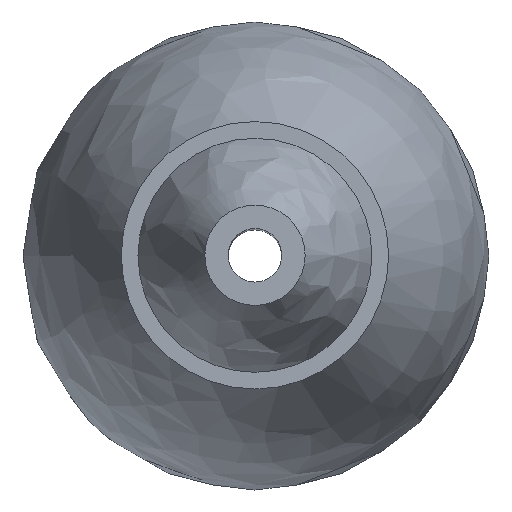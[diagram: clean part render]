
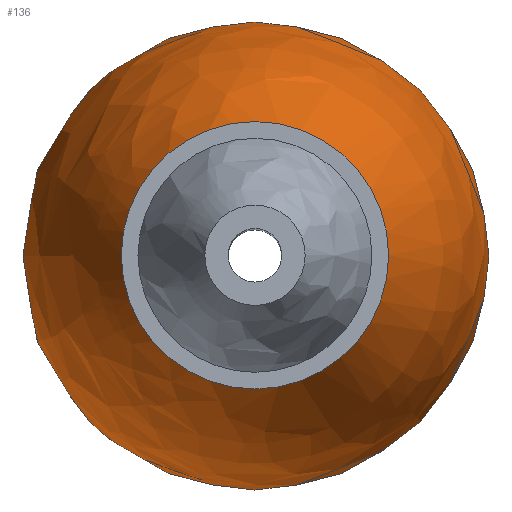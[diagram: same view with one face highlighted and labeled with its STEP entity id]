
A CAD part, top view. The second image highlights one B-rep face of the part: STEP entity #136.
In plain terms, the highlighted free-form (B-spline) face has degree [2, 2] with [3, 9] control points.
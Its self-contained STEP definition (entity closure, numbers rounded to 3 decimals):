
#36=FACE_OUTER_BOUND('',#50,.T.);
#50=EDGE_LOOP('',(#113,#114,#115,#116));
#61=CIRCLE('',#167,8.);
#62=CIRCLE('',#169,8.);
#63=CIRCLE('',#170,51.);
#73=VERTEX_POINT('',#293);
#74=VERTEX_POINT('',#296);
#86=EDGE_CURVE('',#73,#73,#61,.T.);
#87=EDGE_CURVE('',#74,#74,#62,.T.);
#88=EDGE_CURVE('',#73,#74,#63,.T.);
#113=ORIENTED_EDGE('',*,*,#86,.F.);
#114=ORIENTED_EDGE('',*,*,#88,.T.);
#115=ORIENTED_EDGE('',*,*,#87,.T.);
#116=ORIENTED_EDGE('',*,*,#88,.F.);
#127=(
BOUNDED_SURFACE()
B_SPLINE_SURFACE(2,2,((#298,#299,#300,#301,#302,#303,#304,#305,#306),(#307,
#308,#309,#310,#311,#312,#313,#314,#315),(#316,#317,#318,#319,#320,#321,
#322,#323,#324)),.UNSPECIFIED.,.F.,.T.,.F.)
B_SPLINE_SURFACE_WITH_KNOTS((3,3),(3,2,2,2,3),(-0.49,0.49),
(-3.142,-1.571,0.,1.571,3.142),
 .UNSPECIFIED.)
GEOMETRIC_REPRESENTATION_ITEM()
RATIONAL_B_SPLINE_SURFACE(((1.,0.707,1.,0.707,1.,
0.707,1.,0.707,1.),(0.882,0.624,
0.882,0.624,0.882,0.624,
0.882,0.624,0.882),(1.,0.707,
1.,0.707,1.,0.707,1.,0.707,1.)))
REPRESENTATION_ITEM('')
SURFACE()
);
#136=ADVANCED_FACE('',(#36),#127,.F.);
#167=AXIS2_PLACEMENT_3D('',#294,#202,#203);
#169=AXIS2_PLACEMENT_3D('',#297,#206,#207);
#170=AXIS2_PLACEMENT_3D('',#325,#208,#209);
#202=DIRECTION('center_axis',(0.,0.,1.));
#203=DIRECTION('ref_axis',(1.,0.,0.));
#206=DIRECTION('center_axis',(0.,0.,1.));
#207=DIRECTION('ref_axis',(1.,0.,0.));
#208=DIRECTION('center_axis',(0.,-1.,0.));
#209=DIRECTION('ref_axis',(-1.,0.,0.));
#293=CARTESIAN_POINT('',(-8.,0.,48.));
#294=CARTESIAN_POINT('Origin',(0.,0.,48.));
#296=CARTESIAN_POINT('',(-8.,0.,0.));
#297=CARTESIAN_POINT('Origin',(0.,0.,0.));
#298=CARTESIAN_POINT('Ctrl Pts',(-8.,0.,0.));
#299=CARTESIAN_POINT('Ctrl Pts',(-8.,-8.,0.));
#300=CARTESIAN_POINT('Ctrl Pts',(0.,-8.,0.));
#301=CARTESIAN_POINT('Ctrl Pts',(8.,-8.,0.));
#302=CARTESIAN_POINT('Ctrl Pts',(8.,0.,0.));
#303=CARTESIAN_POINT('Ctrl Pts',(8.,8.,0.));
#304=CARTESIAN_POINT('Ctrl Pts',(0.,8.,0.));
#305=CARTESIAN_POINT('Ctrl Pts',(-8.,8.,0.));
#306=CARTESIAN_POINT('Ctrl Pts',(-8.,0.,0.));
#307=CARTESIAN_POINT('Ctrl Pts',(-20.8,0.,24.));
#308=CARTESIAN_POINT('Ctrl Pts',(-20.8,-20.8,24.));
#309=CARTESIAN_POINT('Ctrl Pts',(0.,-20.8,24.));
#310=CARTESIAN_POINT('Ctrl Pts',(20.8,-20.8,24.));
#311=CARTESIAN_POINT('Ctrl Pts',(20.8,0.,24.));
#312=CARTESIAN_POINT('Ctrl Pts',(20.8,20.8,24.));
#313=CARTESIAN_POINT('Ctrl Pts',(0.,20.8,24.));
#314=CARTESIAN_POINT('Ctrl Pts',(-20.8,20.8,24.));
#315=CARTESIAN_POINT('Ctrl Pts',(-20.8,0.,24.));
#316=CARTESIAN_POINT('Ctrl Pts',(-8.,0.,48.));
#317=CARTESIAN_POINT('Ctrl Pts',(-8.,-8.,48.));
#318=CARTESIAN_POINT('Ctrl Pts',(0.,-8.,48.));
#319=CARTESIAN_POINT('Ctrl Pts',(8.,-8.,48.));
#320=CARTESIAN_POINT('Ctrl Pts',(8.,0.,48.));
#321=CARTESIAN_POINT('Ctrl Pts',(8.,8.,48.));
#322=CARTESIAN_POINT('Ctrl Pts',(0.,8.,48.));
#323=CARTESIAN_POINT('Ctrl Pts',(-8.,8.,48.));
#324=CARTESIAN_POINT('Ctrl Pts',(-8.,0.,48.));
#325=CARTESIAN_POINT('Origin',(37.,0.,24.));
